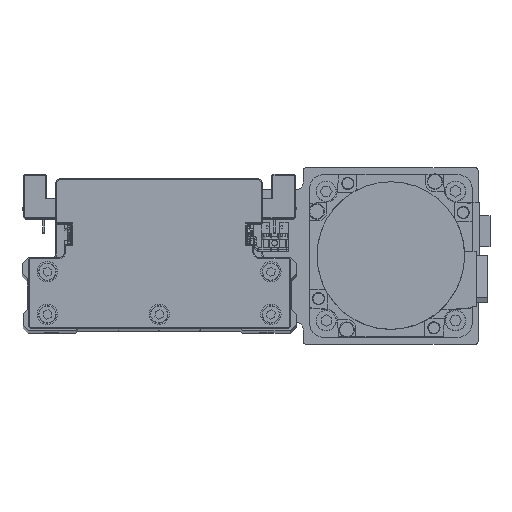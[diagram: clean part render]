
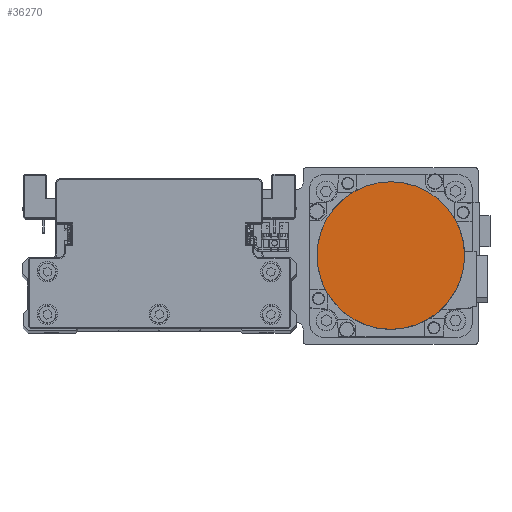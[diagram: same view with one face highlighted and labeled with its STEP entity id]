
A CAD part, top view. The second image highlights one B-rep face of the part: STEP entity #36270.
In plain terms, the highlighted planar face has unit normal (0, 0, 1) as drawn and (0, 0, -1) by its records, which use the part's own axes.
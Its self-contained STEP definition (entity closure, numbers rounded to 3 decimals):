
#1910 = EDGE_CURVE ( 'NONE', #29262, #34274, #25782, .T. ) ;
#5080 = DIRECTION ( 'NONE',  ( 0., 0., 1. ) ) ;
#8471 = AXIS2_PLACEMENT_3D ( 'NONE', #32615, #5080, #17357 ) ;
#11493 = DIRECTION ( 'NONE',  ( 0., 0., 1. ) ) ;
#11949 = CARTESIAN_POINT ( 'NONE',  ( 0., 0., -122.2 ) ) ;
#13360 = CARTESIAN_POINT ( 'NONE',  ( 0., 36.3, -122.2 ) ) ;
#17357 = DIRECTION ( 'NONE',  ( 0., 1., 0. ) ) ;
#21441 = AXIS2_PLACEMENT_3D ( 'NONE', #38975, #11493, #23757 ) ;
#23466 = CARTESIAN_POINT ( 'NONE',  ( 0., -36.3, -122.2 ) ) ;
#23757 = DIRECTION ( 'NONE',  ( 0., -1., 0. ) ) ;
#24217 = DIRECTION ( 'NONE',  ( 0., 0., 1. ) ) ;
#25782 = CIRCLE ( 'NONE', #8471, 36.3 ) ;
#27207 = FACE_OUTER_BOUND ( 'NONE', #29163, .T. ) ;
#29163 = EDGE_LOOP ( 'NONE', ( #31100, #29228 ) ) ;
#29228 = ORIENTED_EDGE ( 'NONE', *, *, #37741, .F. ) ;
#29262 = VERTEX_POINT ( 'NONE', #13360 ) ;
#31100 = ORIENTED_EDGE ( 'NONE', *, *, #1910, .F. ) ;
#32615 = CARTESIAN_POINT ( 'NONE',  ( 0., 0., -122.2 ) ) ;
#34274 = VERTEX_POINT ( 'NONE', #23466 ) ;
#35462 = AXIS2_PLACEMENT_3D ( 'NONE', #11949, #24217, #36428 ) ;
#36270 = ADVANCED_FACE ( 'NONE', ( #27207 ), #39415, .F. ) ;
#36428 = DIRECTION ( 'NONE',  ( 1., 0., 0. ) ) ;
#37741 = EDGE_CURVE ( 'NONE', #34274, #29262, #38737, .T. ) ;
#38737 = CIRCLE ( 'NONE', #21441, 36.3 ) ;
#38975 = CARTESIAN_POINT ( 'NONE',  ( 0., 0., -122.2 ) ) ;
#39415 = PLANE ( 'NONE',  #35462 ) ;
